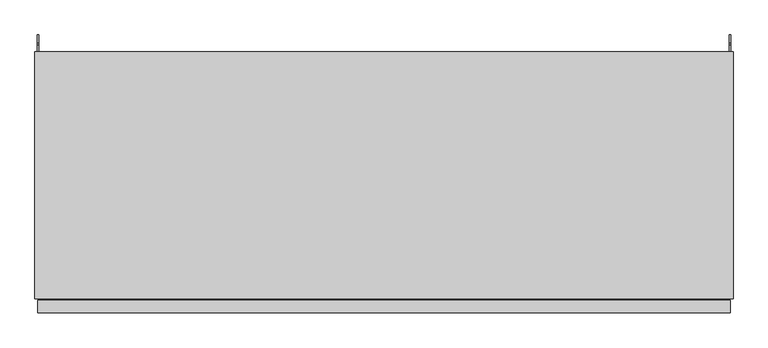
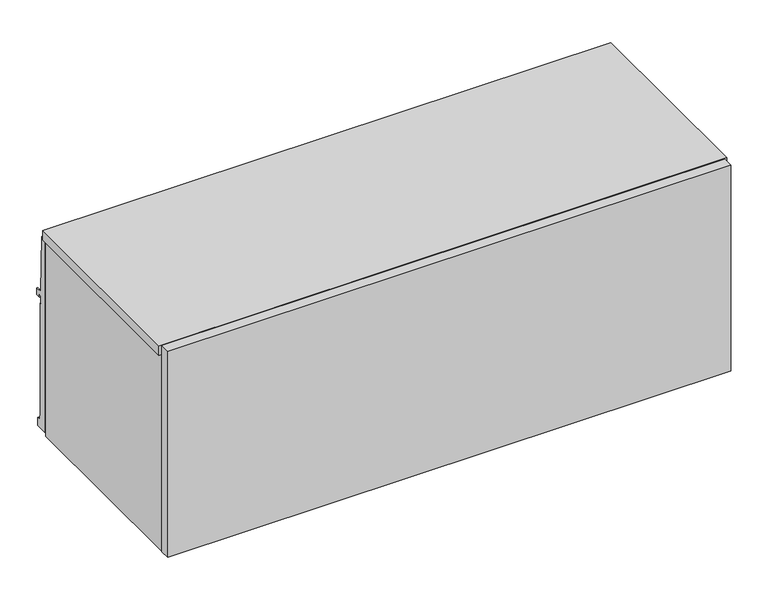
"""IFC4 building model written with IfcOpenShell, lengths in millimetres: furniture geometry, Steelcase - Universal Storage - Over the Case Bin - Flat Front : For Montage - 42W."""

from ifc_helpers import new_model, si_unit, frame, origin, place, context, project, spatial, polyline, outline, extrude, source, transform, mapped, element, save


def furniture_131cc220(model_context):
    return source(origin(), model_context, "Body", "SweptSolid", [
        extrude(outline(polyline([(4.4448587, -379.476), (1062.3703, -379.476), (1062.3703, -398.526), (4.4448587, -398.526), (4.4448587, -379.476)])), frame((0.0, 0.0, 1266.8226746), z_axis=(0.0, 0.0, 1.0), x_axis=(1.0, 0.0, 0.0)), (0.0, 0.0, 1.0), 409.5773254),
        extrude(outline(polyline([(0.0, 1657.096), (10.1677703, 1657.096), (13.3857995, 1545.8185744), (26.0095997, 1545.8185744), (26.0095997, 1532.1025512), (17.5768, 1532.1025512), (17.5768, 1537.1064608), (13.3349998, 1537.1064608), (13.3349998, 1522.6538546), (14.2747998, 1522.6538546), (14.2747998, 1296.0858527), (17.2466001, 1296.0858527), (17.2466001, 1289.7358043), (22.5806007, 1289.7358043), (22.5806007, 1274.2164027), (0.0, 1274.2164027), (0.0, 1657.096)])), frame((1061.2882, 0.0, 0.0), z_axis=(1.0, 0.0, 0.0), x_axis=(0.0, 1.0, 0.0)), (0.0, 0.0, 1.0), 1.905),
        extrude(outline(polyline([(1066.8, -377.213238), (0.0, -377.213238), (0.0, 0.0), (1066.8, 0.0), (1066.8, -377.213238)])), frame((0.0, 0.0, 1657.35), z_axis=(0.0, 0.0, 1.0), x_axis=(1.0, 0.0, 0.0)), (0.0, 0.0, 1.0), 19.05),
        extrude(outline(polyline([(15.875, -377.213238), (5.5118, -377.213238), (5.5118, 0.0), (15.875, 0.0), (15.875, -377.213238)])), frame((0.0, 0.0, 1265.428), z_axis=(0.0, 0.0, 1.0), x_axis=(1.0, 0.0, 0.0)), (0.0, 0.0, 1.0), 391.6679457),
        extrude(outline(polyline([(1065.6568665, -377.213238), (1050.925, -377.213238), (1050.925, 0.0), (1065.6568665, 0.0), (1065.6568665, -377.213238)])), frame((0.0, 0.0, 1265.428), z_axis=(0.0, 0.0, 1.0), x_axis=(1.0, 0.0, 0.0)), (0.0, 0.0, 1.0), 391.6679457),
        extrude(outline(polyline([(0.0, 1657.096), (10.1677703, 1657.096), (13.3857995, 1545.8185744), (26.0095997, 1545.8185744), (26.0095997, 1532.1025512), (17.5768, 1532.1025512), (17.5768, 1537.1064608), (13.3349998, 1537.1064608), (13.3349998, 1522.6538546), (14.2747998, 1522.6538546), (14.2747998, 1296.0858527), (17.2466001, 1296.0858527), (17.2466001, 1289.7358043), (22.5806007, 1289.7358043), (22.5806007, 1274.2164027), (0.0, 1274.2164027), (0.0, 1657.096)])), frame((3.6068, 0.0, 0.0), z_axis=(1.0, 0.0, 0.0), x_axis=(0.0, 1.0, 0.0)), (0.0, 0.0, 1.0), 1.905),
        extrude(outline(polyline([(-35.4584098, 1372.819257), (-27.0763996, 1372.819257), (-27.0763996, 1360.1191601), (-33.4264117, 1360.1191601), (-33.4264117, 1323.1622589), (-27.0763996, 1323.1622589), (-27.0763996, 1265.428), (-35.4584098, 1265.428), (-35.4584098, 1293.054213), (-46.1263996, 1293.054213), (-46.1263996, 1268.1875622), (-59.9694137, 1268.1875622), (-59.9694137, 1294.8575912), (-332.8542818, 1294.8575912), (-332.8542818, 1268.1875622), (-377.3042823, 1268.1875622), (-377.3042823, 1310.7072052), (-35.4584098, 1310.7072052), (-35.4584098, 1372.819257)])), frame((15.875, 0.0, 0.0), z_axis=(1.0, 0.0, 0.0), x_axis=(0.0, 1.0, 0.0)), (0.0, 0.0, 1.0), 1035.05),
    ])


if __name__ == "__main__":
    model = new_model("IFC4")
    model_context = context("Model", 3, world=origin())
    ifc_project = project(units=[si_unit("LENGTHUNIT", "METRE", prefix="MILLI")], contexts=[model_context])
    site = spatial("IfcSite", under=ifc_project)
    building = spatial("IfcBuilding", under=site)
    placement = place(None, origin())
    furniture_shape = furniture_131cc220(model_context)
    element("IfcFurniture", 1, ObjectType="Steelcase - Universal Storage - Over the Case Bin - Flat Front : For Montage - 42W", at=placement, inside=building, context=model_context, shape_type="MappedRepresentation", body=[
        mapped(furniture_shape, transform((0.0, 0.0, 0.0), x_axis=(1.0, 0.0, 0.0), y_axis=(0.0, 1.0, 0.0), z_axis=(0.0, 0.0, 1.0))),
    ])
    save(model, "model.ifc")
